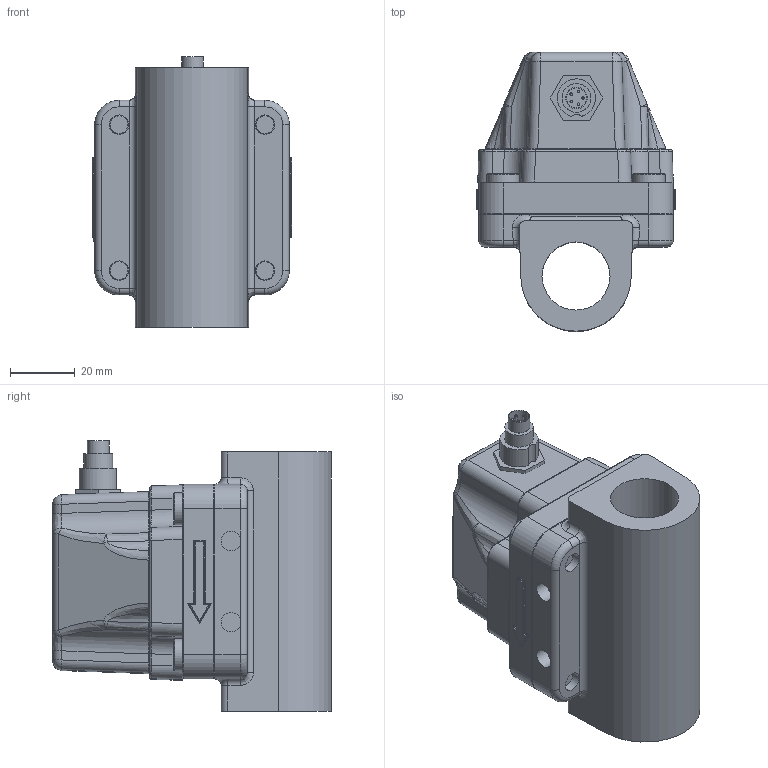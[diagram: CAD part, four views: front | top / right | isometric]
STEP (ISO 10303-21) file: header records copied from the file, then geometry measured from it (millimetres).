
FILE_DESCRIPTION(/* description */ ('Alibre Inc.'),/* implementation_level */ '2;1');
FILE_NAME(/* name */ 'export0',/* time_stamp */ '2012-11-14T15:50:29+01:00',/* author */ (''),/* organization */ (''),/* preprocessor_version */ 'ST-DEVELOPER v14',/* originating_system */ 'Alibre',/* authorisation */ '');
FILE_SCHEMA (('CONFIG_CONTROL_DESIGN'));
Length unit declared in the file: centimetre
Products named in the file (6): ID_1; ID_2; ID_3; ID_4
Bounding box: 61.5 x 86 x 83.5 mm (x, y, z)
Volume: 125837.7 mm3; surface area: 54513 mm2
Topology: 8 solids, 8 shells, 677 faces, 1509 edges, 872 vertices
Faces by surface type: cylinder 216, plane 205, bspline 126, cone 60, sphere 38, torus 32
Full cylindrical faces by diameter (mm): 0.75 x5, 3.198 x4, 6 x18, 6.2 x1, 6.4 x4, 6.7 x1, 8.9 x1, 9.6 x4, 10 x4, 11 x4, 17.2 x2, 21 x1, 21.1 x2
Entity records: 41053 total; most frequent: CARTESIAN_POINT 28253, ORIENTED_EDGE 2524, DIRECTION 2352, EDGE_CURVE 1262, AXIS2_PLACEMENT_3D 1037, VERTEX_POINT 764, EDGE_LOOP 706, FACE_BOUND 706
